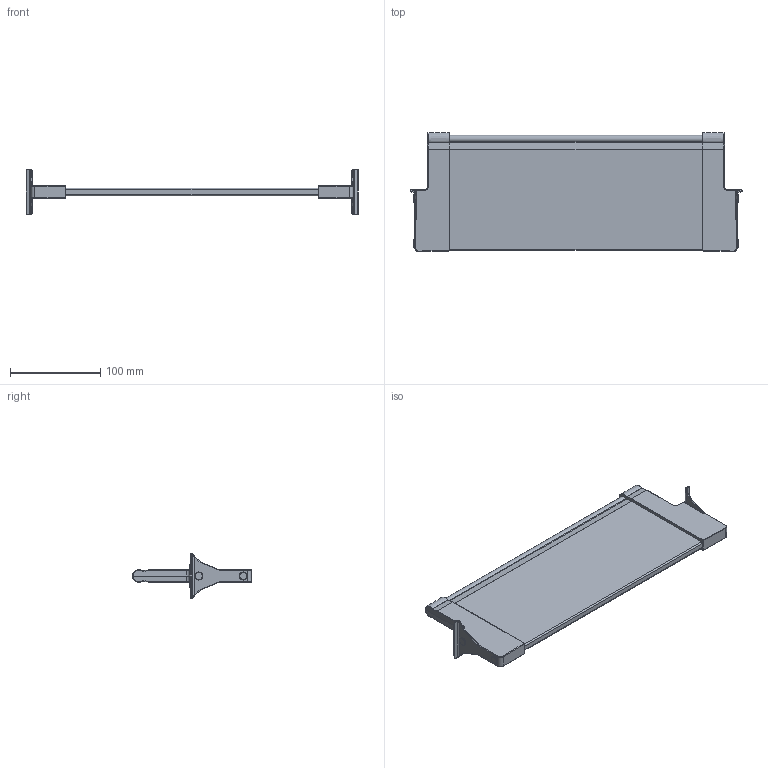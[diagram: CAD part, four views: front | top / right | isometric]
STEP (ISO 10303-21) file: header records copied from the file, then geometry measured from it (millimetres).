
FILE_DESCRIPTION (( 'STEP AP214' ), '1' );
FILE_NAME ('Nova-Pro P622 Querteiler H90Nova PRO Querteiler_H90_KAB 450_16.step', '2009-11-06T06:59:21', ( 'Waldinger Reinhard' ), ( 'Grass GmbH' ), 'SwSTEP 2.0', 'SolidWorks 2009', '' );
FILE_SCHEMA (( 'AUTOMOTIVE_DESIGN' ));
Length unit declared in the file: millimetre
Products named in the file (1): Nova-Pro P622 Querteiler H90Nova PRO Querteiler_H90_KAB 450_16
Bounding box: 368.1 x 132 x 49.97 mm (x, y, z)
Volume: 400653.3 mm3; surface area: 101472.8 mm2
Topology: 1 solids, 1 shells, 248 faces, 578 edges, 334 vertices
Faces by surface type: cylinder 107, bspline 64, plane 51, torus 12, sphere 12, cone 2
Entity records: 11002 total; most frequent: CARTESIAN_POINT 5879, ORIENTED_EDGE 1148, DIRECTION 966, EDGE_CURVE 574, AXIS2_PLACEMENT_3D 369, VERTEX_POINT 334, EDGE_LOOP 254, ADVANCED_FACE 248
